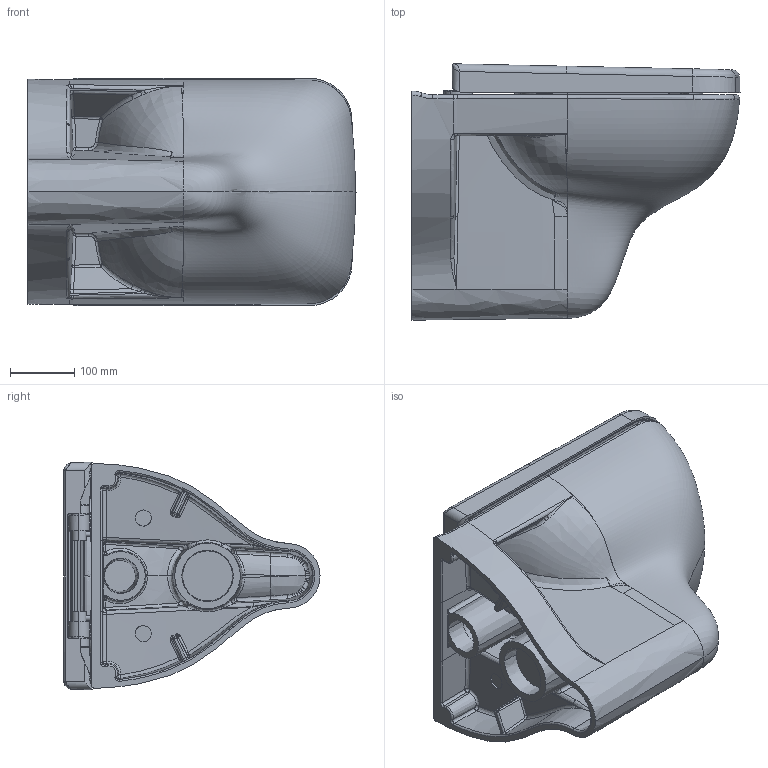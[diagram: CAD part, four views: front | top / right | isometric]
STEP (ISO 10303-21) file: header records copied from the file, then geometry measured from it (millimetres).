
FILE_DESCRIPTION (( 'STEP AP203' ), '1' );
FILE_NAME ('BN320-00CB00E-0000.STEP', '2022-04-25T08:06:32', ( '' ), ( '' ), 'SwSTEP 2.0', 'SolidWorks 2021', '' );
FILE_SCHEMA (( 'CONFIG_CONTROL_DESIGN' ));
Products named in the file (1): BN320-00CB00E-0000
Bounding box: 510.22 x 398.45 x 354 mm (x, y, z)
Volume: 14321274.5 mm3; surface area: 1709693.1 mm2
Topology: 15 solids, 15 shells, 1297 faces, 3167 edges, 1866 vertices
Faces by surface type: bspline 672, cylinder 235, plane 172, torus 136, cone 76, sphere 6
Entity records: 187732 total; most frequent: CARTESIAN_POINT 163054, ORIENTED_EDGE 6222, DIRECTION 3624, EDGE_CURVE 3111, VERTEX_POINT 1866, AXIS2_PLACEMENT_3D 1517, B_SPLINE_CURVE_WITH_KNOTS 1404, EDGE_LOOP 1325
